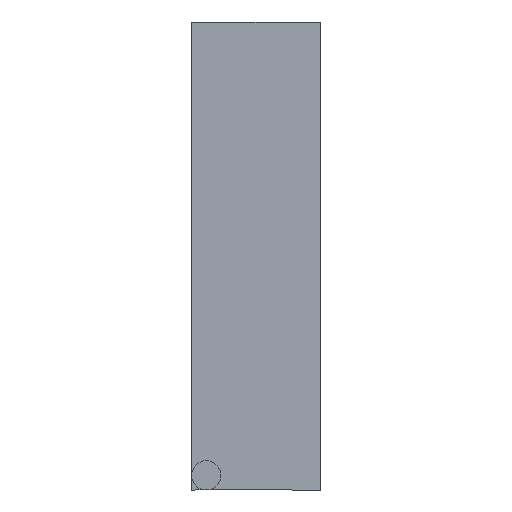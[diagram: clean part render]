
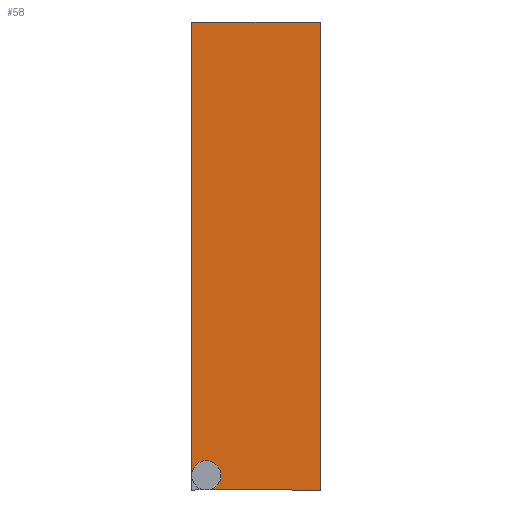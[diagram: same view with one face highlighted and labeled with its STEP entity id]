
A CAD part, left-side view. The second image highlights one B-rep face of the part: STEP entity #58.
In plain terms, the highlighted planar face has unit normal (-1, 0, 0).
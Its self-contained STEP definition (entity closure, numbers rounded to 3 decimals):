
#58=ADVANCED_FACE('',(#166),#168,.T.);
#166=FACE_BOUND('',#167,.T.);
#167=EDGE_LOOP('',(#254,#255,#256,#257,#258));
#168=PLANE('',#169);
#169=AXIS2_PLACEMENT_3D('',#170,#171,#172);
#170=CARTESIAN_POINT('',(-10.,-1.7,0.));
#171=DIRECTION('',(-1.,0.,0.));
#172=DIRECTION('',(0.,0.,1.));
#254=ORIENTED_EDGE('',*,*,#298,.F.);
#255=ORIENTED_EDGE('',*,*,#299,.F.);
#256=ORIENTED_EDGE('',*,*,#300,.T.);
#257=ORIENTED_EDGE('',*,*,#301,.T.);
#258=ORIENTED_EDGE('',*,*,#302,.F.);
#298=EDGE_CURVE('',#320,#321,#322,.F.);
#299=EDGE_CURVE('',#323,#320,#324,.T.);
#300=EDGE_CURVE('',#323,#325,#326,.T.);
#301=EDGE_CURVE('',#325,#327,#328,.T.);
#302=EDGE_CURVE('',#321,#327,#329,.T.);
#320=VERTEX_POINT('',#356);
#321=VERTEX_POINT('',#357);
#322=CIRCLE('',#358,0.25);
#323=VERTEX_POINT('',#362);
#324=LINE('',#363,#364);
#325=VERTEX_POINT('',#366);
#326=LINE('',#367,#368);
#327=VERTEX_POINT('',#370);
#328=LINE('',#371,#372);
#329=LINE('',#374,#375);
#356=CARTESIAN_POINT('',(-10.,0.25,0.));
#357=CARTESIAN_POINT('',(-10.,0.5,0.25));
#358=AXIS2_PLACEMENT_3D('',#359,#360,#361);
#359=CARTESIAN_POINT('',(-10.,0.25,0.25));
#360=DIRECTION('',(1.,0.,0.));
#361=DIRECTION('',(0.,1.,0.));
#362=CARTESIAN_POINT('',(-10.,-1.7,0.));
#363=CARTESIAN_POINT('',(-10.,-1.7,0.));
#364=VECTOR('',#365,1.);
#365=DIRECTION('',(0.,1.,0.));
#366=CARTESIAN_POINT('',(-10.,-1.7,8.));
#367=CARTESIAN_POINT('',(-10.,-1.7,0.));
#368=VECTOR('',#369,1.);
#369=DIRECTION('',(0.,0.,1.));
#370=CARTESIAN_POINT('',(-10.,0.5,8.));
#371=CARTESIAN_POINT('',(-10.,-1.7,8.));
#372=VECTOR('',#373,1.);
#373=DIRECTION('',(0.,1.,0.));
#374=CARTESIAN_POINT('',(-10.,0.5,0.25));
#375=VECTOR('',#376,1.);
#376=DIRECTION('',(0.,0.,1.));
